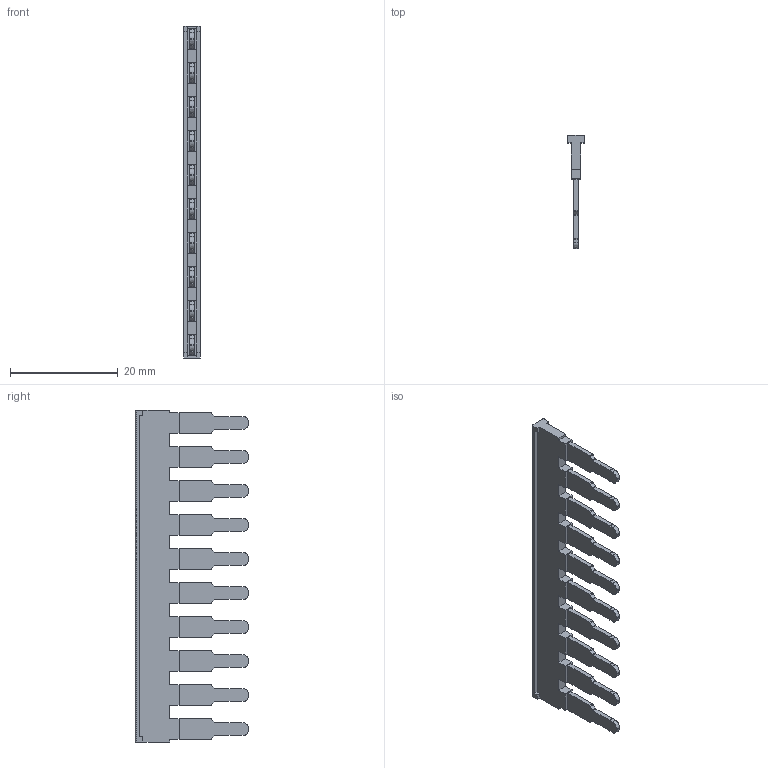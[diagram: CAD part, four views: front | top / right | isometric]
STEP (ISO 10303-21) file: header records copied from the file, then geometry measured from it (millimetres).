
FILE_DESCRIPTION(('Creo Elements/Direct Modeling STEP Export'),'2;1');
FILE_NAME('EFB0410R.stp','2019-07-26T14:39:50',(''),(''),'Creo Elements/Direct Modeling STEP processor for AP214 (Solid Model)','Creo Elements/Direct Modeling 20.1 10-Mar-2018 (C) Parametric Technology GmbH','');
FILE_SCHEMA(('AUTOMOTIVE_DESIGN { 1 0 10303 214 1 1 1 1 }'));
Length unit declared in the file: millimetre
Products named in the file (2): EFB0410R
Assembly tree (1 placements, depth 2):
  EFB0410R
    EFB0410R
Bounding box: 3 x 21.01 x 61.5 mm (x, y, z)
Volume: 1190.6 mm3; surface area: 2344.1 mm2
Topology: 1 solids, 1 shells, 330 faces, 954 edges, 636 vertices
Faces by surface type: plane 208, cylinder 82, extrusion 40
Entity records: 11761 total; most frequent: CARTESIAN_POINT 2520, ORIENTED_EDGE 1908, DIRECTION 1594, EDGE_CURVE 954, VECTOR 734, LINE 694, VERTEX_POINT 636, AXIS2_PLACEMENT_3D 430
